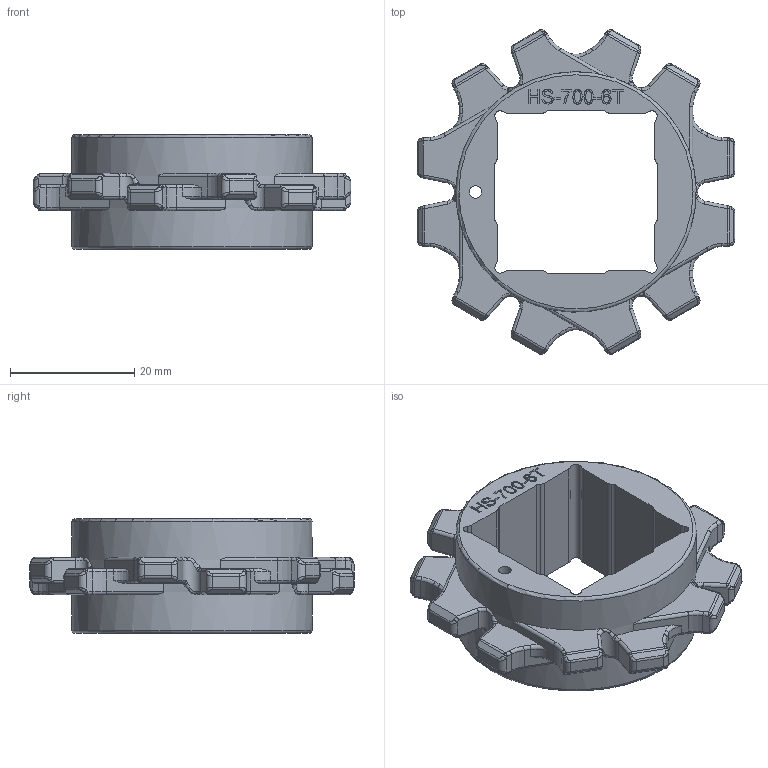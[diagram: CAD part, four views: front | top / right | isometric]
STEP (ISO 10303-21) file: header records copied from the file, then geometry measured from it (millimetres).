
FILE_DESCRIPTION(/* description */ (''),/* implementation_level */ '2;1');
FILE_NAME(/* name */ 'HS-700-6T.stp',/* time_stamp */ '2025-09-12T10:37:05+08:00',/* author */ (''),/* organization */ (''),/* preprocessor_version */ 'ST-DEVELOPER v15',/* originating_system */ 'SIEMENS PLM Software NX 8.5',/* authorisation */ '');
FILE_SCHEMA (('AP203_CONFIGURATION_CONTROLLED_3D_DESIGN_OF_MECHANICAL_PARTS_AND_ASSEMBLIES_MIM_LF { 1 0 10303 403 2 1 2}'));
Length unit declared in the file: millimetre
Products named in the file (1): Admi2A20536371k2
Bounding box: 51.2 x 52.34 x 18.5 mm (x, y, z)
Volume: 12273.7 mm3; surface area: 6985.6 mm2
Topology: 1 solids, 1 shells, 640 faces, 1580 edges, 908 vertices
Faces by surface type: cylinder 246, plane 170, bspline 96, torus 62, sphere 46, extrusion 20
Full cylindrical faces by diameter (mm): 2 x1, 38.75 x2
Entity records: 20699 total; most frequent: CARTESIAN_POINT 5996, DIRECTION 3157, ORIENTED_EDGE 3054, EDGE_CURVE 1527, AXIS2_PLACEMENT_3D 1257, VERTEX_POINT 906, EDGE_LOOP 661, VECTOR 643
